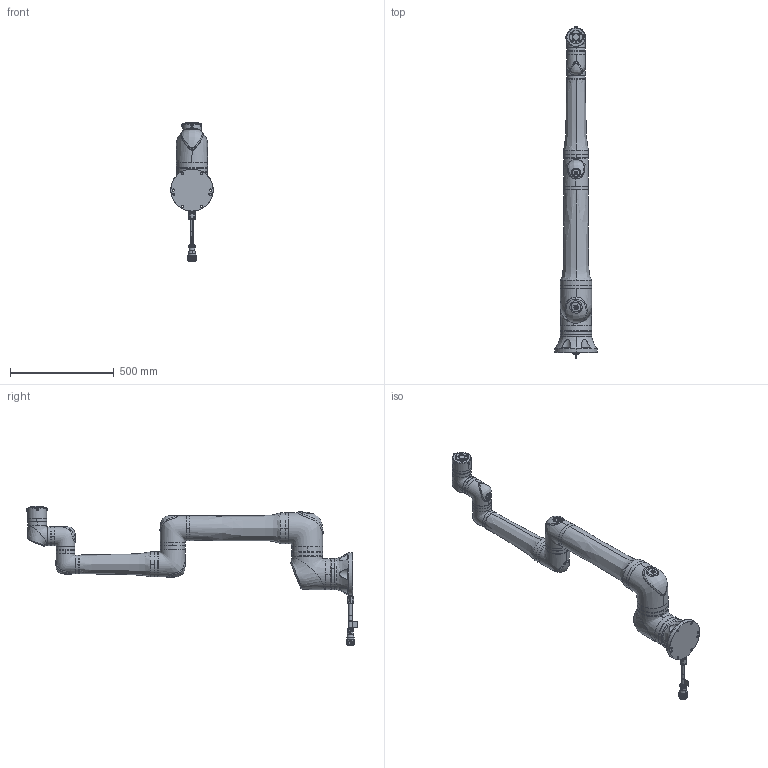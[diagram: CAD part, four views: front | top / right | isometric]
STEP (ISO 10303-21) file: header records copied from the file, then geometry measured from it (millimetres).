
FILE_DESCRIPTION (( 'STEP AP214' ), '1' );
FILE_NAME ('774-475-01_Filled.STEP', '2026-06-24T07:26:41', ( '' ), ( '' ), 'SwSTEP 2.0', 'SolidWorks 2025', '' );
FILE_SCHEMA (( 'AUTOMOTIVE_DESIGN' ));
Length unit declared in the file: millimetre
Products named in the file (8): C-2011363; C-2011365; C-2011366; C-2011369; 774-475-01_Filled; C-2011368; C-2011364; C-2011367
Assembly tree (7 placements, depth 2):
  774-475-01_Filled
    C-2011363
    C-2011364
    C-2011365
    C-2011366
    C-2011367
    C-2011368
    C-2011369
Bounding box: 203.81 x 1598.1 x 670.11 mm (x, y, z)
Volume: 25192140 mm3; surface area: 1032513.5 mm2
Topology: 7 solids, 7 shells, 2126 faces, 5400 edges, 3343 vertices
Faces by surface type: bspline 1007, cylinder 482, plane 374, cone 144, torus 105, sphere 14
Entity records: 123376 total; most frequent: CARTESIAN_POINT 80029, ORIENTED_EDGE 10728, DIRECTION 6456, EDGE_CURVE 5364, VERTEX_POINT 3343, AXIS2_PLACEMENT_3D 2543, B_SPLINE_CURVE_WITH_KNOTS 2358, EDGE_LOOP 2251
